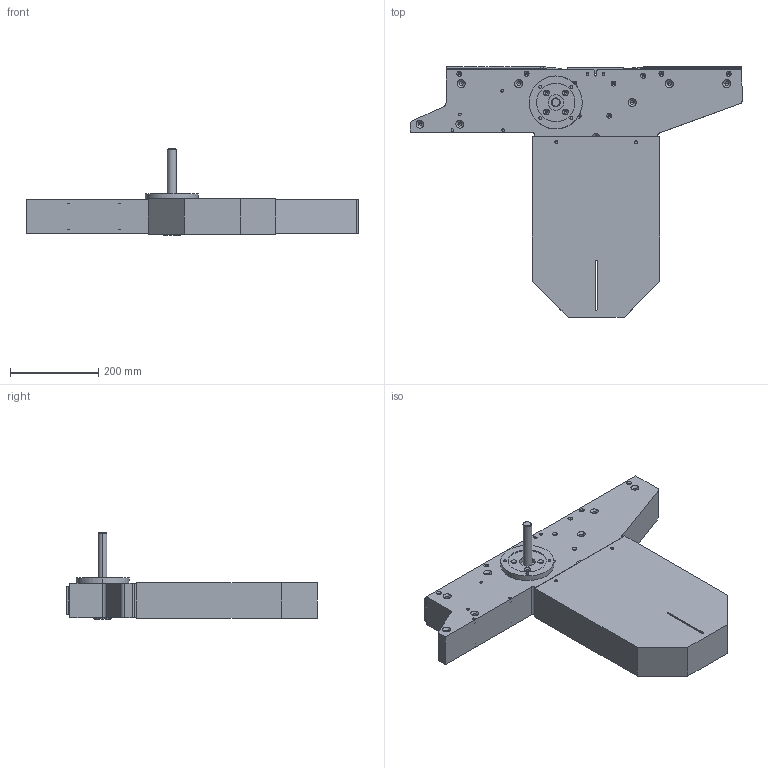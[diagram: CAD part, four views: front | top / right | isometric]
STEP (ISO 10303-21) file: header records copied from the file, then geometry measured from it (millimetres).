
FILE_DESCRIPTION (( 'STEP AP214' ), '1' );
FILE_NAME ('FSCD DD 0R.step', '2017-04-07T11:09:09', ( '' ), ( '' ), 'SwSTEP 2.0', 'SolidWorks 2016', '' );
FILE_SCHEMA (( 'AUTOMOTIVE_DESIGN' ));
Length unit declared in the file: millimetre
Products named in the file (1): FSCD DD 0R
Bounding box: 751.5 x 566.68 x 195.9 mm (x, y, z)
Volume: 16476651.5 mm3; surface area: 722158.1 mm2
Topology: 1 solids, 1 shells, 475 faces, 1115 edges, 640 vertices
Faces by surface type: cylinder 184, cone 174, plane 97, bspline 18, torus 2
Entity records: 17096 total; most frequent: CARTESIAN_POINT 3291, DIRECTION 2348, ORIENTED_EDGE 2070, EDGE_CURVE 1035, AXIS2_PLACEMENT_3D 915, VERTEX_POINT 640, EDGE_LOOP 557, VECTOR 518
